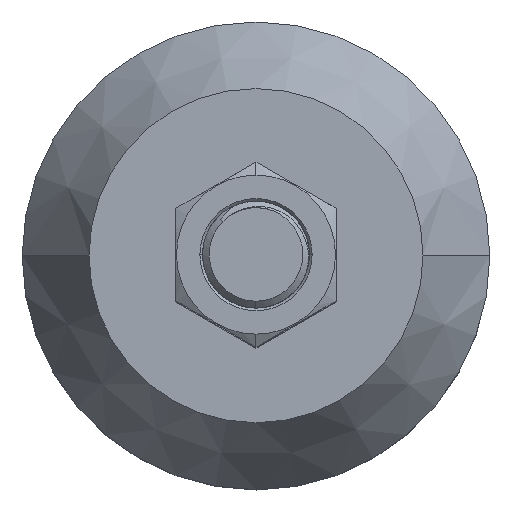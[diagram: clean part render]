
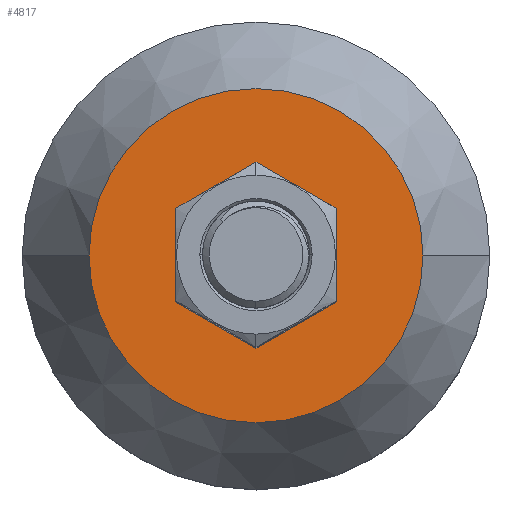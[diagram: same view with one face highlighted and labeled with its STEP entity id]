
A CAD part, top view. The second image highlights one B-rep face of the part: STEP entity #4817.
In plain terms, the highlighted planar face has unit normal (0, 0, 1).
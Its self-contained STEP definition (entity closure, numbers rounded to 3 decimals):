
#236 = CARTESIAN_POINT ( 'NONE',  ( 25., 0., 41. ) ) ;
#921 = ORIENTED_EDGE ( 'NONE', *, *, #9632, .F. ) ;
#959 = DIRECTION ( 'NONE',  ( 0., 0., -1. ) ) ;
#1860 = CIRCLE ( 'NONE', #13094, 25. ) ;
#2920 = FACE_OUTER_BOUND ( 'NONE', #7203, .T. ) ;
#3431 = DIRECTION ( 'NONE',  ( 0., 0., -1. ) ) ;
#4817 = ADVANCED_FACE ( 'NONE', ( #2920 ), #10627, .F. ) ;
#5601 = CARTESIAN_POINT ( 'NONE',  ( 25., 0., 41. ) ) ;
#6493 = DIRECTION ( 'NONE',  ( -1., 0., 0. ) ) ;
#6645 = CARTESIAN_POINT ( 'NONE',  ( -25., 0., 41. ) ) ;
#7163 = CARTESIAN_POINT ( 'NONE',  ( 0., 0., 41. ) ) ;
#7203 = EDGE_LOOP ( 'NONE', ( #11341, #921 ) ) ;
#7846 = VERTEX_POINT ( 'NONE', #6645 ) ;
#8213 = DIRECTION ( 'NONE',  ( -1., 0., 0. ) ) ;
#9370 = AXIS2_PLACEMENT_3D ( 'NONE', #236, #12701, #6493 ) ;
#9388 = CIRCLE ( 'NONE', #11333, 25. ) ;
#9632 = EDGE_CURVE ( 'NONE', #9778, #7846, #9388, .T. ) ;
#9654 = CARTESIAN_POINT ( 'NONE',  ( 0., 0., 41. ) ) ;
#9778 = VERTEX_POINT ( 'NONE', #5601 ) ;
#10627 = PLANE ( 'NONE',  #9370 ) ;
#10693 = DIRECTION ( 'NONE',  ( -1., 0., 0. ) ) ;
#11333 = AXIS2_PLACEMENT_3D ( 'NONE', #9654, #3431, #10693 ) ;
#11341 = ORIENTED_EDGE ( 'NONE', *, *, #12584, .F. ) ;
#12584 = EDGE_CURVE ( 'NONE', #7846, #9778, #1860, .T. ) ;
#12701 = DIRECTION ( 'NONE',  ( 0., 0., -1. ) ) ;
#13094 = AXIS2_PLACEMENT_3D ( 'NONE', #7163, #959, #8213 ) ;
